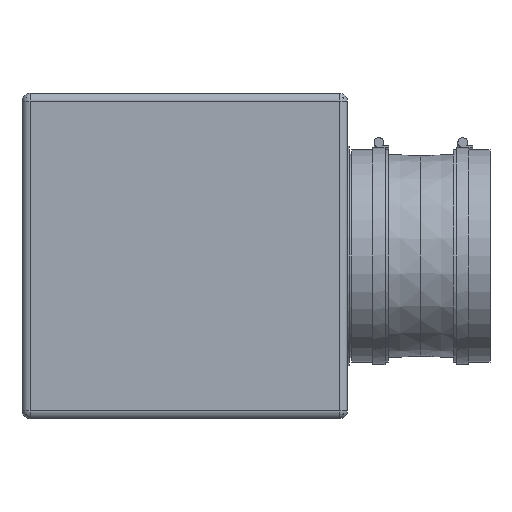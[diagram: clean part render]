
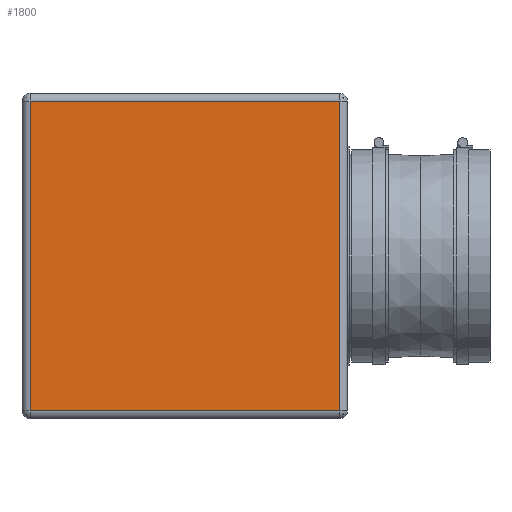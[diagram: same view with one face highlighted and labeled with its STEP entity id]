
A CAD part, left-side view. The second image highlights one B-rep face of the part: STEP entity #1800.
In plain terms, the highlighted planar face has unit normal (-1, 0, 0).
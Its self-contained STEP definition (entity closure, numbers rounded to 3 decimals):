
#153=PLANE('',#2008);
#248=FACE_OUTER_BOUND('',#411,.T.);
#411=EDGE_LOOP('',(#1413,#1414,#1415,#1416));
#553=LINE('',#2864,#647);
#556=LINE('',#2897,#650);
#559=LINE('',#2901,#653);
#575=LINE('',#2939,#669);
#647=VECTOR('',#2316,10.);
#650=VECTOR('',#2355,10.);
#653=VECTOR('',#2360,10.);
#669=VECTOR('',#2408,10.);
#887=VERTEX_POINT('',#2852);
#888=VERTEX_POINT('',#2856);
#891=VERTEX_POINT('',#2866);
#902=VERTEX_POINT('',#2893);
#1061=EDGE_CURVE('',#888,#887,#553,.T.);
#1076=EDGE_CURVE('',#891,#902,#556,.T.);
#1079=EDGE_CURVE('',#902,#888,#559,.T.);
#1101=EDGE_CURVE('',#887,#891,#575,.T.);
#1413=ORIENTED_EDGE('',*,*,#1076,.F.);
#1414=ORIENTED_EDGE('',*,*,#1101,.F.);
#1415=ORIENTED_EDGE('',*,*,#1061,.F.);
#1416=ORIENTED_EDGE('',*,*,#1079,.F.);
#1800=ADVANCED_FACE('',(#248),#153,.T.);
#2008=AXIS2_PLACEMENT_3D('',#2941,#2411,#2412);
#2316=DIRECTION('',(0.,1.,0.));
#2355=DIRECTION('',(0.,-1.,0.));
#2360=DIRECTION('',(0.,0.,-1.));
#2408=DIRECTION('',(0.,0.,1.));
#2411=DIRECTION('center_axis',(-1.,0.,0.));
#2412=DIRECTION('ref_axis',(0.,0.,1.));
#2852=CARTESIAN_POINT('',(-200.,190.,-190.));
#2856=CARTESIAN_POINT('',(-200.,-190.,-190.));
#2864=CARTESIAN_POINT('',(-200.,0.,-190.));
#2866=CARTESIAN_POINT('',(-200.,190.,190.));
#2893=CARTESIAN_POINT('',(-200.,-190.,190.));
#2897=CARTESIAN_POINT('',(-200.,0.,190.));
#2901=CARTESIAN_POINT('',(-200.,-190.,-100.));
#2939=CARTESIAN_POINT('',(-200.,190.,-100.));
#2941=CARTESIAN_POINT('Origin',(-200.,0.,-200.));
